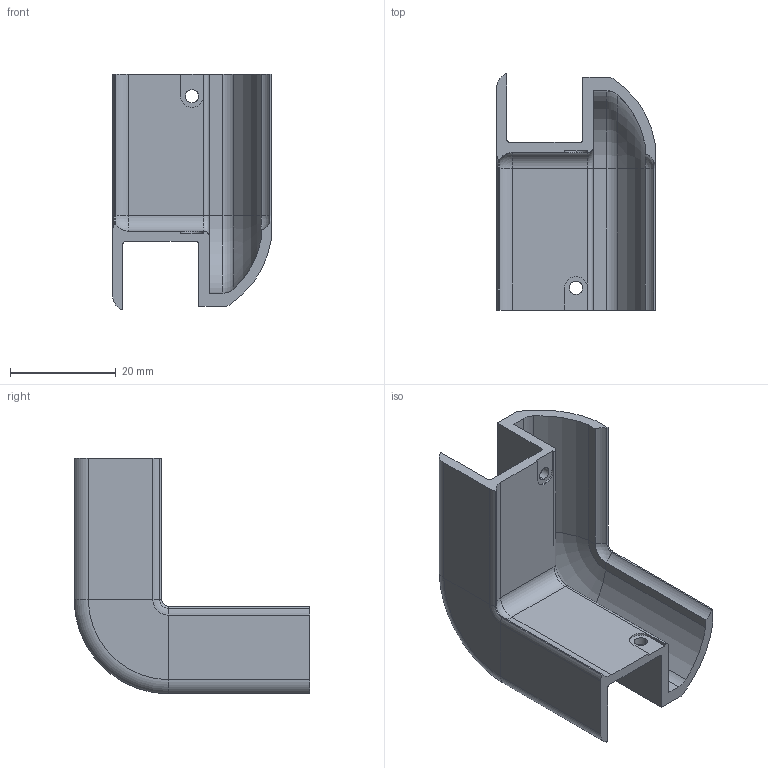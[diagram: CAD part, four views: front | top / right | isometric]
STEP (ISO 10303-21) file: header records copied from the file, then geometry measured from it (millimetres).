
FILE_DESCRIPTION (( 'STEP AP203' ), '1' );
FILE_NAME ('013.030.115.STEP', '2020-09-28T06:34:40', ( '' ), ( '' ), 'SwSTEP 2.0', 'SolidWorks 2018', '' );
FILE_SCHEMA (( 'CONFIG_CONTROL_DESIGN' ));
Length unit declared in the file: millimetre
Products named in the file (1): 013.030.115
Bounding box: 30 x 44.59 x 44.6 mm (x, y, z)
Volume: 8403.7 mm3; surface area: 9016.9 mm2
Topology: 1 solids, 1 shells, 91 faces, 224 edges, 132 vertices
Faces by surface type: cylinder 38, plane 38, torus 10, bspline 3, sphere 2
Entity records: 2780 total; most frequent: CARTESIAN_POINT 519, DIRECTION 484, ORIENTED_EDGE 446, EDGE_CURVE 223, AXIS2_PLACEMENT_3D 179, VERTEX_POINT 132, VECTOR 126, LINE 126
